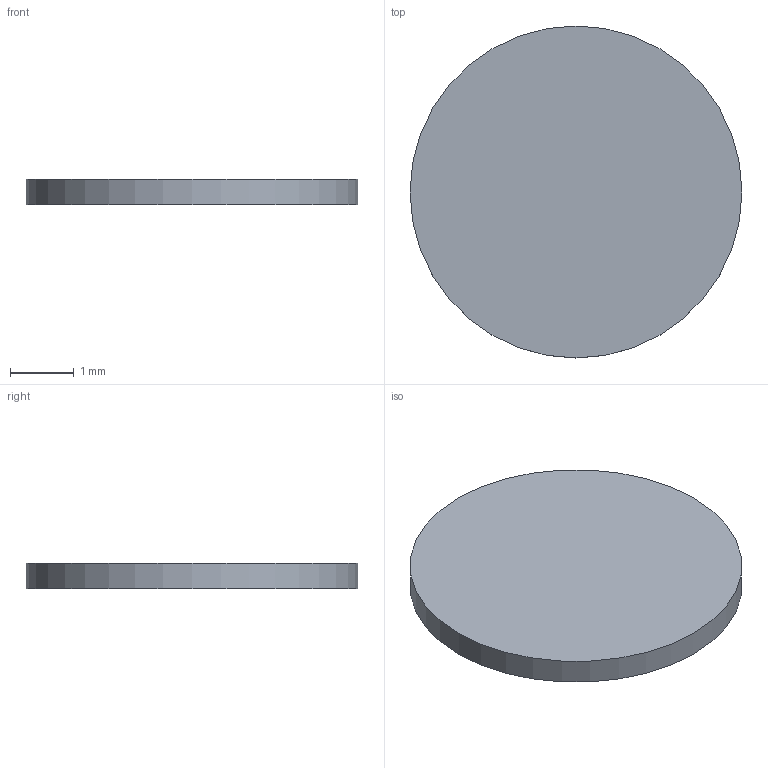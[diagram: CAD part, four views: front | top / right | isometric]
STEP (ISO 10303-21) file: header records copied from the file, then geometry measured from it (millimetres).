
FILE_DESCRIPTION(('Open CASCADE Model'),'2;1');
FILE_NAME('Open CASCADE Shape Model','2026-09-06T11:46:32',('Author'),( 'Open CASCADE'),'Open CASCADE STEP processor 7.7','Open CASCADE 7.7' ,'Unknown');
FILE_SCHEMA(('AUTOMOTIVE_DESIGN { 1 0 10303 214 1 1 1 1 }'));
Length unit declared in the file: millimetre
Products named in the file (1): Open CASCADE STEP translator 7.7 25
Bounding box: 5.2 x 5.2 x 0.4 mm (x, y, z)
Volume: 8.5 mm3; surface area: 49 mm2
Topology: 1 solids, 1 shells, 3 faces, 3 edges, 2 vertices
Faces by surface type: plane 2, cylinder 1
Full cylindrical faces by diameter (mm): 5.2 x1
Entity records: 108 total; most frequent: DIRECTION 19, CARTESIAN_POINT 15, AXIS2_PLACEMENT_3D 6, ORIENTED_EDGE 6, PCURVE 6, DEFINITIONAL_REPRESENTATION 6, LINE 5, VECTOR 5
